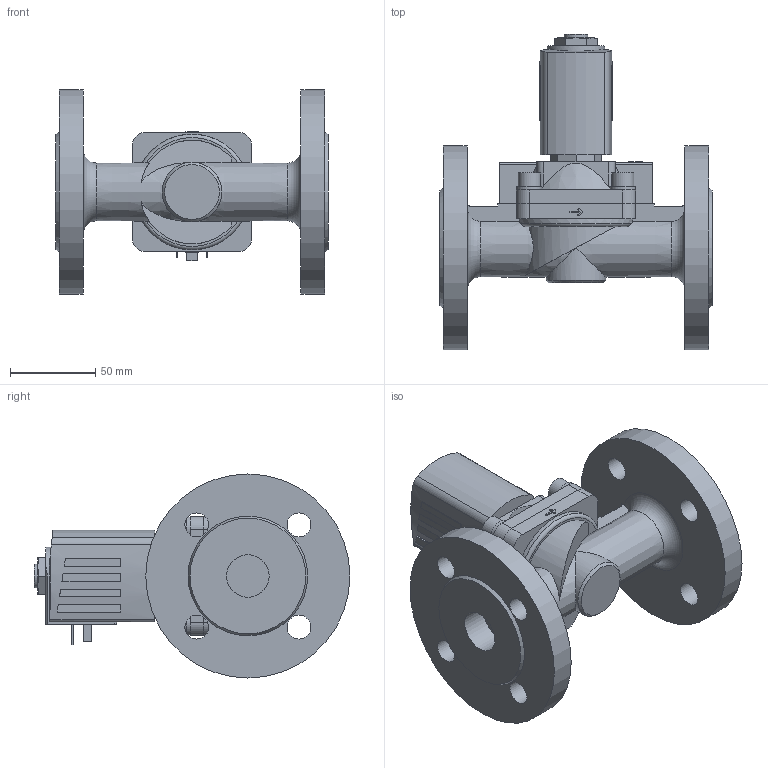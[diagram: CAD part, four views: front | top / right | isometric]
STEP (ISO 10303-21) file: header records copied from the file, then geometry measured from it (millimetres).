
FILE_DESCRIPTION(/* description */ ('STEP AP214'),/* implementation_level */ '2;1');
FILE_NAME(/* name */ '6407-369641-Servo-assisted_2_2_way_piston_valve',/* time_stamp */ '2024-07-02T12:36:54+02:00',/* author */ ('License CC BY-ND 4.0'),/* organization */ ('CADENAS'),/* preprocessor_version */ 'ST-DEVELOPER v19.3',/* originating_system */ 'PARTsolutions',/* authorisation */ ' ');
FILE_SCHEMA (('AUTOMOTIVE_DESIGN {1 0 10303 214 3 1 1}'));
Length unit declared in the file: millimetre
Products named in the file (4): 6407-369641-Servo-assisted 2/2 way piston valve; 5282g-FD1225VA100-2/2-Wege-Magnetventil_Gehaeuse; 5282d-25MSAU5N-2/2-Wege-Magnetventil_Deckel; AC10ex-42SG=k-Plan-Coil
Assembly tree (3 placements, depth 2):
  6407-369641-Servo-assisted 2/2 way piston valve
    5282g-FD1225VA100-2/2-Wege-Magnetventil_Gehaeuse
    5282d-25MSAU5N-2/2-Wege-Magnetventil_Deckel
    AC10ex-42SG=k-Plan-Coil
Bounding box: 160 x 185.7 x 120 mm (x, y, z)
Volume: 736069.4 mm3; surface area: 118245.4 mm2
Topology: 3 solids, 3 shells, 263 faces, 676 edges, 451 vertices
Faces by surface type: plane 170, cylinder 75, cone 14, torus 4
Full cylindrical faces by diameter (mm): 2.013 x1, 13 x4, 14 x9, 14.8 x4, 25 x2, 35 x1, 120 x2
Entity records: 8773 total; most frequent: CARTESIAN_POINT 1652, DIRECTION 1308, ORIENTED_EDGE 1278, EDGE_CURVE 639, AXIS2_PLACEMENT_3D 456, VERTEX_POINT 441, LINE 396, VECTOR 396
